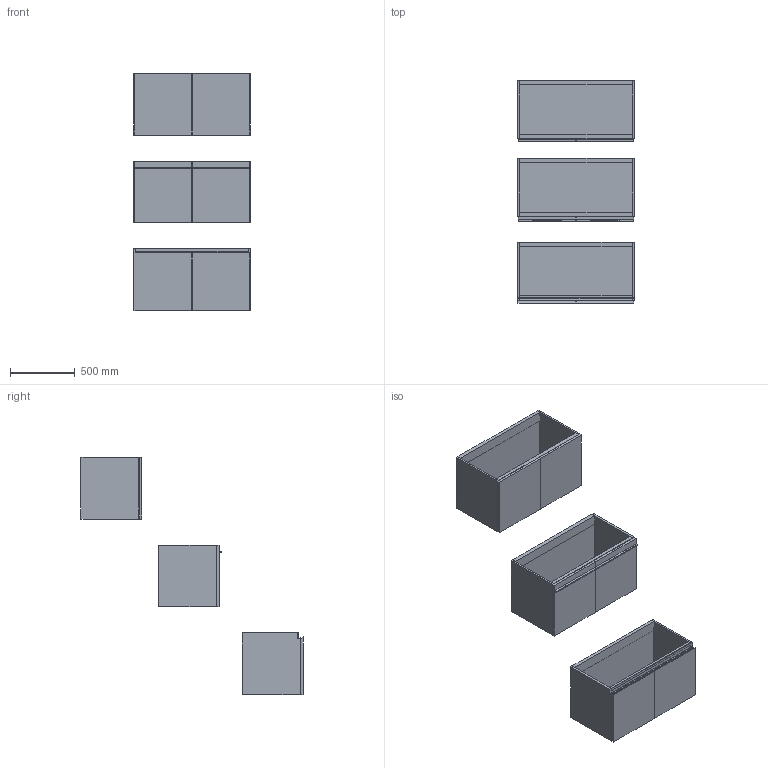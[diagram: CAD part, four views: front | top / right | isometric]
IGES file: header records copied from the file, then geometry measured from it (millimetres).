
Start section: Data from Parasolid IGES Translator 19.0.9, Copyright(c) 2006 Siemens PL M Software. All Rights Reserved.
Global section: file name: noorth-SI-H 48 D 47 W 90_8472.igs; native system: By Siemens PLM Incorporated; preprocessor: XPlus GENERIC/IGES 19.0.9; author: Noname; organization: Noname; date: 20200601.105153; units: metre
Bounding box: 900 x 1719.1 x 1840.01 mm (x, y, z)
Volume: 74237451.1 mm3; surface area: 11273167.2 mm2
Topology: 27 solids, 27 shells, 264 faces, 566 edges, 336 vertices
Faces by surface type: plane 180, extrusion 32, bspline 32, cylinder 20
